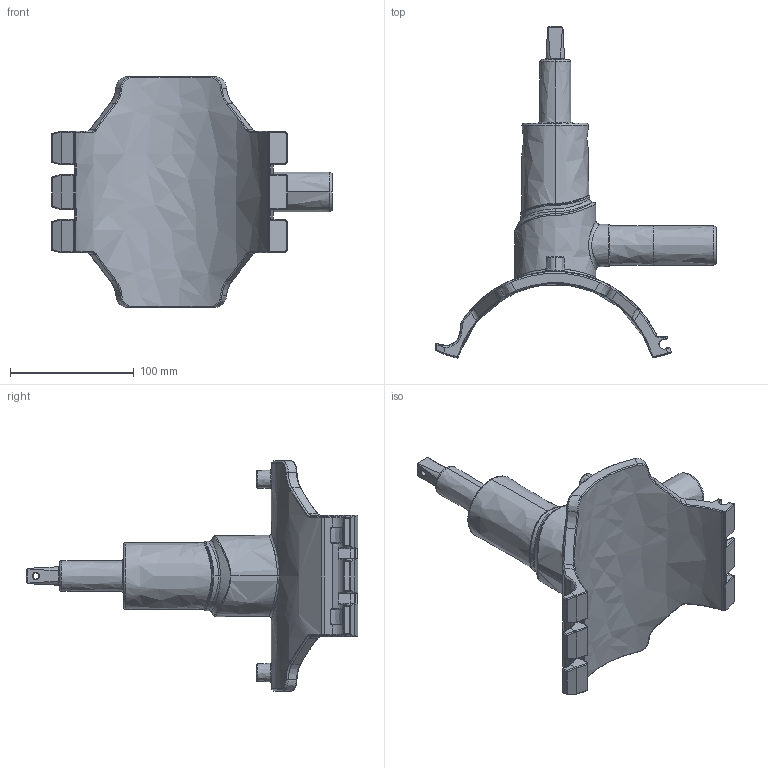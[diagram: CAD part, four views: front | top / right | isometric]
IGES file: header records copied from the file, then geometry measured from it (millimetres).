
Start section:  PTC IGES file: dav2_d160_32_01.igs
Global section: file name: dav2_d160_32_01.igs; native system: Creo Parametric by PTC Inc.; preprocessor: 2019030; author: demmerls; organization: Unknown; date: 20201127.104307; units: millimetre
Bounding box: 226.52 x 267.9 x 186 mm (x, y, z)
Surface area: 118129.5 mm2 (no closed solid volume)
Topology: 0 solids, 0 shells, 571 faces, 2768 edges, 2762 vertices
Faces by surface type: bspline 571
